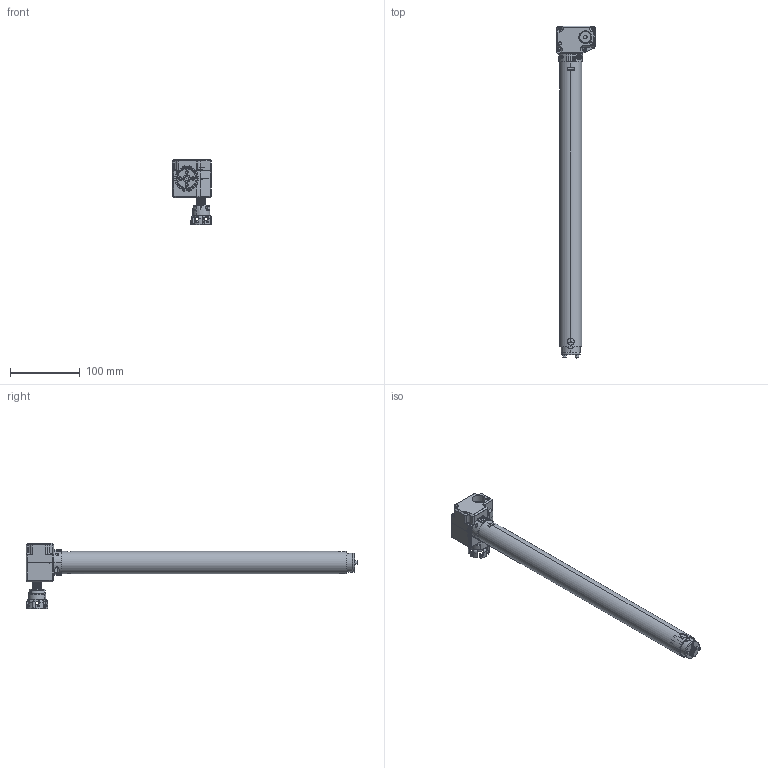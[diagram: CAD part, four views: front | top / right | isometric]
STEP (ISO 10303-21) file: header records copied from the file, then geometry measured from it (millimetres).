
FILE_DESCRIPTION (( 'STEP AP203' ), '1' );
FILE_NAME ('3D_TBS10_R.STEP', '2018-12-11T11:01:31', ( '' ), ( '' ), 'SwSTEP 2.0', 'SolidWorks 2015', '' );
FILE_SCHEMA (( 'CONFIG_CONTROL_DESIGN' ));
Length unit declared in the file: millimetre
Products named in the file (1): 3D_TBS10_R
Bounding box: 56.67 x 476.5 x 93.45 mm (x, y, z)
Volume: 419187.6 mm3; surface area: 110342.7 mm2
Topology: 12 solids, 14 shells, 3794 faces, 10261 edges, 6520 vertices
Faces by surface type: cylinder 1849, plane 1117, bspline 554, torus 179, cone 53, sphere 42
Entity records: 133614 total; most frequent: CARTESIAN_POINT 40912, ORIENTED_EDGE 20402, DIRECTION 18792, EDGE_CURVE 10201, AXIS2_PLACEMENT_3D 7048, VERTEX_POINT 6508, LINE 4696, VECTOR 4696
